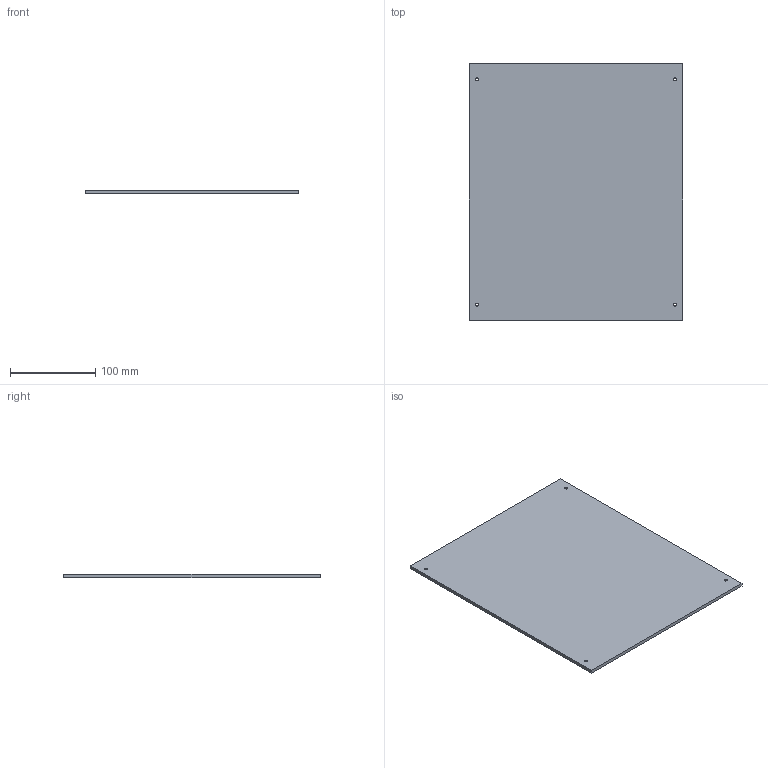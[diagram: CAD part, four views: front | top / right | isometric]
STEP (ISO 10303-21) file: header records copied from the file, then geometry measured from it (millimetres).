
FILE_DESCRIPTION(('Open CASCADE Model'),'2;1');
FILE_NAME('Open CASCADE Shape Model','2026-10-21T16:53:52',('Author'),( 'Open CASCADE'),'Open CASCADE STEP processor 7.9','Open CASCADE 7.9' ,'Unknown');
FILE_SCHEMA(('AUTOMOTIVE_DESIGN { 1 0 10303 214 1 1 1 1 }'));
Length unit declared in the file: millimetre
Products named in the file (1): Open CASCADE STEP translator 7.9 18
Bounding box: 250 x 300 x 4 mm (x, y, z)
Volume: 299854.7 mm3; surface area: 154498.3 mm2
Topology: 1 solids, 1 shells, 10 faces, 24 edges, 16 vertices
Faces by surface type: plane 6, cylinder 4
Full cylindrical faces by diameter (mm): 3.4 x4
Entity records: 658 total; most frequent: CARTESIAN_POINT 147, DIRECTION 94, LINE 56, VECTOR 56, ORIENTED_EDGE 48, PCURVE 48, DEFINITIONAL_REPRESENTATION 48, EDGE_CURVE 24
